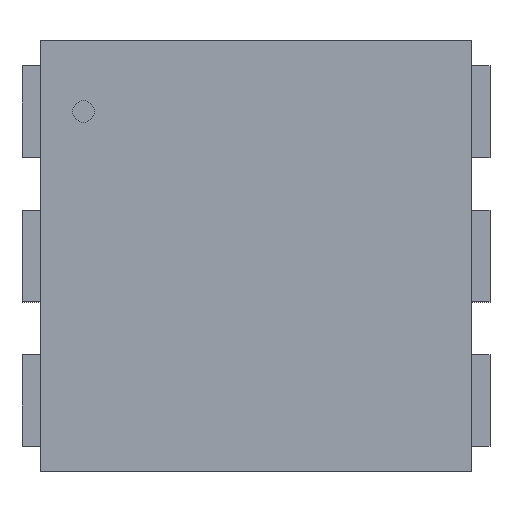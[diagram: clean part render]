
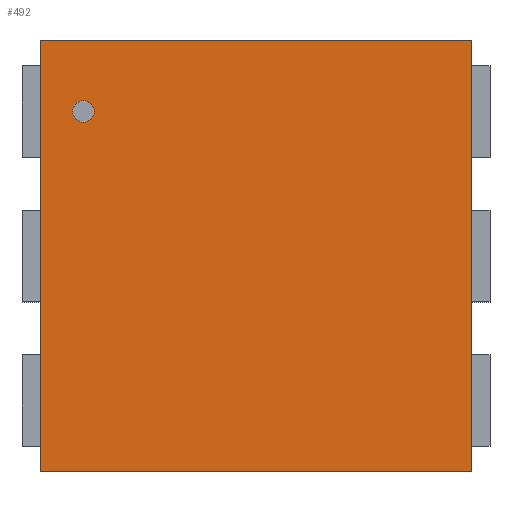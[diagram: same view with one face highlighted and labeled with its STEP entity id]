
A CAD part, top view. The second image highlights one B-rep face of the part: STEP entity #492.
In plain terms, the highlighted planar face has unit normal (0, 0, 1).
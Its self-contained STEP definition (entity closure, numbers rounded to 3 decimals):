
#268=CARTESIAN_POINT('',(0.597,-0.597,0.457));
#267=VERTEX_POINT('',#268);
#278=CARTESIAN_POINT('',(-0.597,-0.597,0.457));
#277=VERTEX_POINT('',#278);
#276=EDGE_CURVE('',#277,#267,#281,.T.);
#281=LINE('',#278,#283);
#283=VECTOR('',#284,1.194);
#284=DIRECTION('',(1.0,0.0,0.0));
#317=CARTESIAN_POINT('',(0.597,0.597,0.457));
#316=VERTEX_POINT('',#317);
#325=EDGE_CURVE('',#267,#316,#330,.T.);
#330=LINE('',#268,#332);
#332=VECTOR('',#333,1.194);
#333=DIRECTION('',(0.0,1.0,0.0));
#366=CARTESIAN_POINT('',(-0.597,0.597,0.457));
#365=VERTEX_POINT('',#366);
#374=EDGE_CURVE('',#316,#365,#379,.T.);
#379=LINE('',#317,#381);
#381=VECTOR('',#382,1.194);
#382=DIRECTION('',(-1.0,0.0,0.0));
#423=EDGE_CURVE('',#365,#277,#428,.T.);
#428=LINE('',#366,#430);
#430=VECTOR('',#431,1.194);
#431=DIRECTION('',(0.0,-1.0,0.0));
#492=ADVANCED_FACE('',(#498),#493,.T.);
#493=PLANE('',#494);
#494=AXIS2_PLACEMENT_3D('',#495,#496,#497);
#495=CARTESIAN_POINT('',(-0.597,-0.597,0.457));
#496=DIRECTION('',(0.0,0.0,1.0));
#497=DIRECTION('',(0.,1.,0.));
#498=FACE_OUTER_BOUND('',#499,.T.);
#499=EDGE_LOOP('',(#500,#510,#520,#530));
#500=ORIENTED_EDGE('',*,*,#276,.T.);
#510=ORIENTED_EDGE('',*,*,#325,.T.);
#520=ORIENTED_EDGE('',*,*,#374,.T.);
#530=ORIENTED_EDGE('',*,*,#423,.T.);
